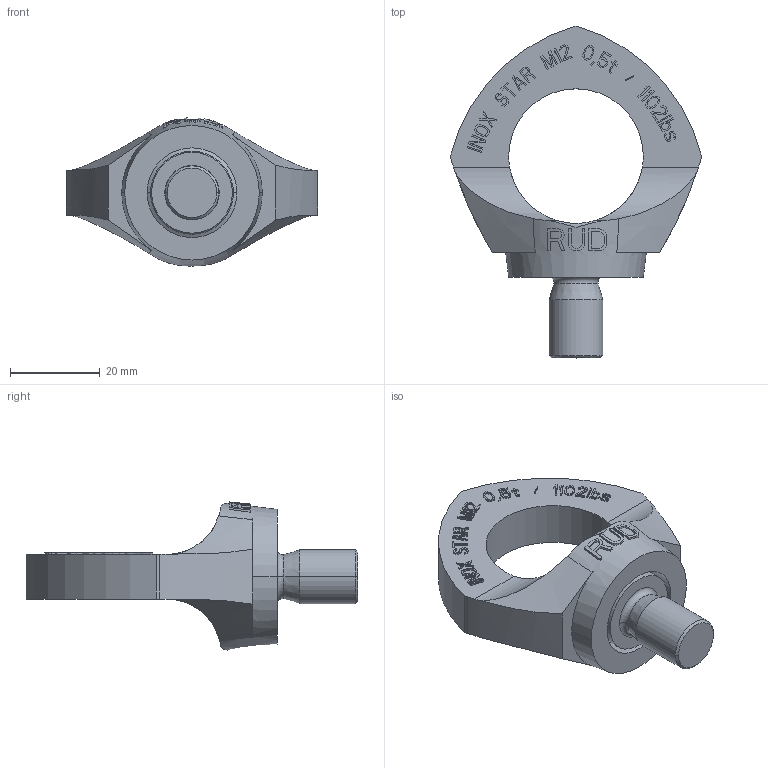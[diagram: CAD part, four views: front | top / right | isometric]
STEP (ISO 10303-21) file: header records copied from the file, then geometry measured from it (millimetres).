
FILE_DESCRIPTION((''),'2;1');
FILE_NAME('001-M31024-P-3_ASM','2016-08-24T',('Marcel.Bux'),(''),'PRO/ENGINEER BY PARAMETRIC TECHNOLOGY CORPORATION, 2011490','PRO/ENGINEER BY PARAMETRIC TECHNOLOGY CORPORATION, 2011490','');
FILE_SCHEMA(('CONFIG_CONTROL_DESIGN'));
Length unit declared in the file: millimetre
Products named in the file (3): 001-M31024-P-2; 001-M31026-P-1; 001-M31024-P-3_ASM
Assembly tree (2 placements, depth 2):
  001-M31024-P-3_ASM
    001-M31024-P-2
    001-M31026-P-1
Bounding box: 56 x 74 x 33.03 mm (x, y, z)
Volume: 24340.8 mm3; surface area: 9914.4 mm2
Topology: 2 solids, 2 shells, 674 faces, 1892 edges, 1256 vertices
Faces by surface type: plane 625, cylinder 24, cone 12, bspline 7, torus 6
Entity records: 22089 total; most frequent: CARTESIAN_POINT 4875, ORIENTED_EDGE 3784, DIRECTION 3143, EDGE_CURVE 1892, VECTOR 1647, LINE 1647, VERTEX_POINT 1256, AXIS2_PLACEMENT_3D 748
